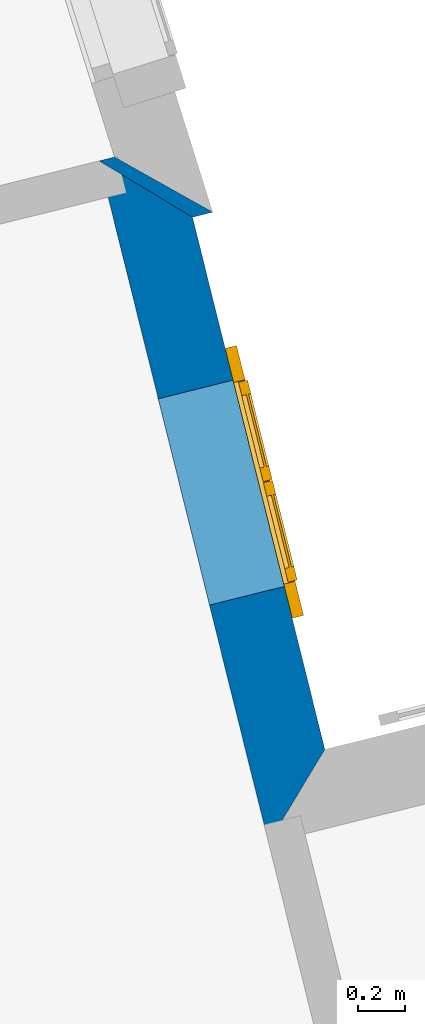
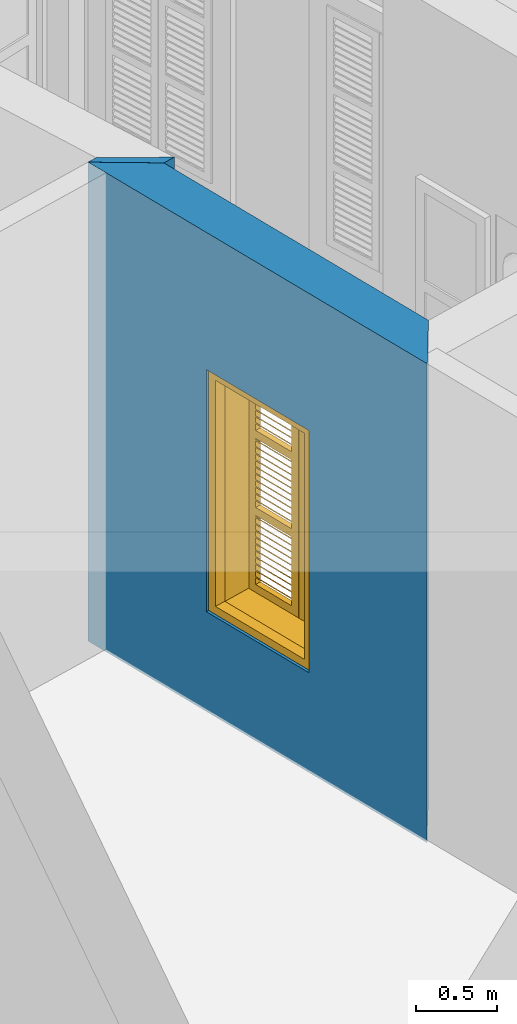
# One storey, part 5 of 14: 2 walls, 1 window, 1 opening.
"""IFC4 building model written with IfcOpenShell, lengths in metres."""

from ifc_helpers import new_model, si_unit, frame, origin, origin_with_axes, place, context, subcontext, project, spatial, polyline, outline, extrude, faceted_brep, source, transform, mapped, material, layer, layer_set, layer_usage, type_object, type_shapes, element, fill, save


model = new_model("IFC4")

# Units and contexts
model_context = context("Model", 3, world=origin_with_axes())
body_context = subcontext(model_context, "Body", "Model", "MODEL_VIEW")
ifc_project = project(units=[si_unit("PLANEANGLEUNIT", "RADIAN"), si_unit("MASSUNIT", "GRAM", prefix="KILO"), si_unit("FORCEUNIT", "NEWTON", prefix="KILO"), si_unit("LENGTHUNIT", "METRE"), si_unit("AREAUNIT", "SQUARE_METRE"), si_unit("VOLUMEUNIT", "CUBIC_METRE")], contexts=[model_context, model_context])

# Site, building, storey
site_placement = place(None, origin_with_axes())
site = spatial("IfcSite", under=ifc_project, at=site_placement, Name="Site plot-0", CompositionType="ELEMENT")
building_placement = place(None, origin_with_axes())
building = spatial("IfcBuilding", under=site, at=building_placement, Name="Building plot-0", CompositionType="ELEMENT")
storey_placement = place(None, origin_with_axes())
storey = spatial("IfcBuildingStorey", under=building, at=storey_placement, Name="plot-0 0", CompositionType="ELEMENT", Elevation=0.0)

# Wall, opening, window
ifc_material = material(Name="Masonry")
ifc_layer = layer(ifc_material, 0.33, ventilated=False)
ifc_layer_set = layer_set([ifc_layer], Name="exterior_0.08_0.25")
ifc_layer_usage = layer_usage(ifc_layer_set, "AXIS2", "POSITIVE", -0.25)
wall_type = type_object("IfcWallType", Name="exterior_0.08_0.25", PredefinedType="SOLIDWALL", material=ifc_layer_set)
wall_1_placement = place(storey_placement, frame((4.66925074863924, 2.62283335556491, 0.0), z_axis=(0.0, 0.0, 1.0), x_axis=(-0.241213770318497, 0.970472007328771, 0.0)))
wall_1 = element("IfcWall", 1, at=wall_1_placement, inside=storey, type_object=wall_type, material=ifc_layer_usage, Name="exterior", context=body_context, shape_type="SweptSolid", body=[
    extrude(outline(polyline([(-0.0799999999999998, 0.0799999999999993), (0.250000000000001, -0.250000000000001), (2.59744784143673, -0.250000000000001), (2.92744784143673, 0.0799999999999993), (-0.0799999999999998, 0.0799999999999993)])), origin_with_axes(), (0.0, 0.0, 1.0), 3.6),
])
opening_placement = place(wall_1_placement, frame((0.968723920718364, 0.0, 0.75)))
opening = element("IfcOpeningElement", 2, at=opening_placement, cuts=wall_1, Name="My Opening", ObjectType="Opening", context=body_context, shape_type="SweptSolid", body=[
    extrude(outline(polyline([(0.0, -0.27), (0.910000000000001, -0.27), (0.910000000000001, 1.1), (1.11022302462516e-16, 1.1), (0.0, -0.27)])), origin_with_axes(), (0.0, 0.0, 1.0), 1.82),
])
window_type = type_object("IfcWindowType", Name="shuttered_big", PartitioningType="DOUBLE_PANEL_HORIZONTAL", PredefinedType="NOTDEFINED")
shared_shape = source(origin(), body_context, "Body", "Brep", [
    faceted_brep([(0.074, 0.0, 0.810667), (0.393, 0.0, 0.810667), (0.393, 0.0, 0.800667), (0.074, 0.0, 0.800667), (0.074, -0.04, 0.770667), (0.393, -0.04, 0.770667), (0.393, -0.04, 0.760667), (0.074, -0.04, 0.760667), (0.517, 0.0, 0.232), (0.836, 0.0, 0.232), (0.836, 0.0, 0.222), (0.517, 0.0, 0.222), (0.517, -0.04, 0.192), (0.836, -0.04, 0.192), (0.836, -0.04, 0.182), (0.517, -0.04, 0.182), (0.517, 0.0, 0.532), (0.836, 0.0, 0.532), (0.836, 0.0, 0.522), (0.517, 0.0, 0.522), (0.517, -0.04, 0.492), (0.836, -0.04, 0.492), (0.836, -0.04, 0.482), (0.517, -0.04, 0.482), (0.517, 0.0, 0.482), (0.836, 0.0, 0.482), (0.836, 0.0, 0.472), (0.517, 0.0, 0.472), (0.517, -0.04, 0.442), (0.836, -0.04, 0.442), (0.836, -0.04, 0.432), (0.517, -0.04, 0.432), (0.517, 0.0, 0.582), (0.836, 0.0, 0.582), (0.836, 0.0, 0.572), (0.517, 0.0, 0.572), (0.517, -0.04, 0.542), (0.836, -0.04, 0.542), (0.836, -0.04, 0.532), (0.517, -0.04, 0.532), (0.517, 0.0, 0.182), (0.836, 0.0, 0.182), (0.836, 0.0, 0.172), (0.517, 0.0, 0.172), (0.517, -0.04, 0.142), (0.836, -0.04, 0.142), (0.836, -0.04, 0.132), (0.517, -0.04, 0.132), (0.517, 0.0, 0.382), (0.836, 0.0, 0.382), (0.836, 0.0, 0.372), (0.517, 0.0, 0.372), (0.517, -0.04, 0.342), (0.836, -0.04, 0.342), (0.836, -0.04, 0.332), (0.517, -0.04, 0.332), (0.517, 0.0, 0.432), (0.836, 0.0, 0.432), (0.836, 0.0, 0.422), (0.517, 0.0, 0.422), (0.517, -0.04, 0.392), (0.836, -0.04, 0.392), (0.836, -0.04, 0.382), (0.517, -0.04, 0.382), (0.517, 0.0, 0.132), (0.836, 0.0, 0.132), (0.836, 0.0, 0.122), (0.517, 0.0, 0.122), (0.517, -0.04, 0.092), (0.836, -0.04, 0.092), (0.836, -0.04, 0.082), (0.517, -0.04, 0.082), (0.517, 0.0, 0.282), (0.836, 0.0, 0.282), (0.836, 0.0, 0.272), (0.517, 0.0, 0.272), (0.517, -0.04, 0.242), (0.836, -0.04, 0.242), (0.836, -0.04, 0.232), (0.517, -0.04, 0.232), (0.517, 0.0, 0.332), (0.836, 0.0, 0.332), (0.836, 0.0, 0.322), (0.517, 0.0, 0.322), (0.517, -0.04, 0.292), (0.836, -0.04, 0.292), (0.836, -0.04, 0.282), (0.517, -0.04, 0.282), (0.517, 0.0, 0.810667), (0.836, 0.0, 0.810667), (0.836, 0.0, 0.800667), (0.517, 0.0, 0.800667), (0.517, -0.04, 0.770667), (0.836, -0.04, 0.770667), (0.836, -0.04, 0.760667), (0.517, -0.04, 0.760667), (0.517, 0.0, 1.110667), (0.836, 0.0, 1.110667), (0.836, 0.0, 1.100667), (0.517, 0.0, 1.100667), (0.517, -0.04, 1.070667), (0.836, -0.04, 1.070667), (0.836, -0.04, 1.060667), (0.517, -0.04, 1.060667), (0.517, 0.0, 1.060667), (0.836, 0.0, 1.060667), (0.836, 0.0, 1.050667), (0.517, 0.0, 1.050667), (0.517, -0.04, 1.020667), (0.836, -0.04, 1.020667), (0.836, -0.04, 1.010667), (0.517, -0.04, 1.010667), (0.517, 0.0, 1.160667), (0.836, 0.0, 1.160667), (0.836, 0.0, 1.150667), (0.517, 0.0, 1.150667), (0.517, -0.04, 1.120667), (0.836, -0.04, 1.120667), (0.836, -0.04, 1.110667), (0.517, -0.04, 1.110667), (0.517, 0.0, 0.760667), (0.836, 0.0, 0.760667), (0.836, 0.0, 0.750667), (0.517, 0.0, 0.750667), (0.517, -0.04, 0.720667), (0.836, -0.04, 0.720667), (0.836, -0.04, 0.710667), (0.517, -0.04, 0.710667), (0.517, 0.0, 0.960667), (0.836, 0.0, 0.960667), (0.836, 0.0, 0.950667), (0.517, 0.0, 0.950667), (0.517, -0.04, 0.920667), (0.836, -0.04, 0.920667), (0.836, -0.04, 0.910667), (0.517, -0.04, 0.910667), (0.517, 0.0, 1.010667), (0.836, 0.0, 1.010667), (0.836, 0.0, 1.0), (0.517, 0.0, 1.0), (0.517, -0.04, 0.970667), (0.836, -0.04, 0.970667), (0.836, -0.04, 0.960667), (0.517, -0.04, 0.960667), (0.517, 0.0, 0.710667), (0.836, 0.0, 0.710667), (0.836, 0.0, 0.700667), (0.517, 0.0, 0.700667), (0.517, -0.04, 0.670667), (0.836, -0.04, 0.670667), (0.836, -0.04, 0.660667), (0.517, -0.04, 0.660667), (0.517, 0.0, 0.860667), (0.836, 0.0, 0.860667), (0.836, 0.0, 0.850667), (0.517, 0.0, 0.850667), (0.517, -0.04, 0.820667), (0.836, -0.04, 0.820667), (0.836, -0.04, 0.810667), (0.517, -0.04, 0.810667), (0.517, 0.0, 0.910667), (0.836, 0.0, 0.910667), (0.836, 0.0, 0.900667), (0.517, 0.0, 0.900667), (0.517, -0.04, 0.870667), (0.836, -0.04, 0.870667), (0.836, -0.04, 0.860667), (0.517, -0.04, 0.860667), (0.517, 0.0, 1.389333), (0.836, 0.0, 1.389333), (0.836, 0.0, 1.379333), (0.517, 0.0, 1.379333), (0.517, -0.04, 1.349333), (0.836, -0.04, 1.349333), (0.836, -0.04, 1.339333), (0.517, -0.04, 1.339333), (0.517, 0.0, 1.689333), (0.836, 0.0, 1.689333), (0.836, 0.0, 1.679333), (0.517, 0.0, 1.679333), (0.517, -0.04, 1.649333), (0.836, -0.04, 1.649333), (0.836, -0.04, 1.639333), (0.517, -0.04, 1.639333), (0.517, 0.0, 1.639333), (0.836, 0.0, 1.639333), (0.836, 0.0, 1.629333), (0.517, 0.0, 1.629333), (0.517, -0.04, 1.599333), (0.836, -0.04, 1.599333), (0.836, -0.04, 1.589333), (0.517, -0.04, 1.589333), (0.517, 0.0, 1.739333), (0.836, 0.0, 1.739333), (0.836, 0.0, 1.729333), (0.517, 0.0, 1.729333), (0.517, -0.04, 1.699333), (0.836, -0.04, 1.699333), (0.836, -0.04, 1.689333), (0.517, -0.04, 1.689333), (0.517, 0.0, 1.339333), (0.836, 0.0, 1.339333), (0.836, 0.0, 1.329333), (0.517, 0.0, 1.329333), (0.517, -0.04, 1.299333), (0.836, -0.04, 1.299333), (0.836, -0.04, 1.289333), (0.517, -0.04, 1.289333), (0.517, 0.0, 1.539333), (0.836, 0.0, 1.539333), (0.836, 0.0, 1.529333), (0.517, 0.0, 1.529333), (0.517, -0.04, 1.499333), (0.836, -0.04, 1.499333), (0.836, -0.04, 1.489333), (0.517, -0.04, 1.489333), (0.517, 0.0, 1.589333), (0.836, 0.0, 1.589333), (0.836, 0.0, 1.579333), (0.517, 0.0, 1.579333), (0.517, -0.04, 1.549333), (0.836, -0.04, 1.549333), (0.836, -0.04, 1.539333), (0.517, -0.04, 1.539333), (0.517, 0.0, 1.289333), (0.836, 0.0, 1.289333), (0.836, 0.0, 1.279333), (0.517, 0.0, 1.279333), (0.517, -0.04, 1.249333), (0.836, -0.04, 1.249333), (0.836, -0.04, 1.239333), (0.517, -0.04, 1.239333), (0.517, 0.0, 1.439333), (0.836, 0.0, 1.439333), (0.836, 0.0, 1.429333), (0.517, 0.0, 1.429333), (0.517, -0.04, 1.399333), (0.836, -0.04, 1.399333), (0.836, -0.04, 1.389333), (0.517, -0.04, 1.389333), (0.517, 0.0, 1.489333), (0.836, 0.0, 1.489333), (0.836, 0.0, 1.479333), (0.517, 0.0, 1.479333), (0.517, -0.04, 1.449333), (0.836, -0.04, 1.449333), (0.836, -0.04, 1.439333), (0.517, -0.04, 1.439333), (0.074, 0.0, 0.232), (0.393, 0.0, 0.232), (0.393, 0.0, 0.222), (0.074, 0.0, 0.222), (0.074, -0.04, 0.192), (0.393, -0.04, 0.192), (0.393, -0.04, 0.182), (0.074, -0.04, 0.182), (0.074, 0.0, 0.532), (0.393, 0.0, 0.532), (0.393, 0.0, 0.522), (0.074, 0.0, 0.522), (0.074, -0.04, 0.492), (0.393, -0.04, 0.492), (0.393, -0.04, 0.482), (0.074, -0.04, 0.482), (0.074, 0.0, 0.482), (0.393, 0.0, 0.482), (0.393, 0.0, 0.472), (0.074, 0.0, 0.472), (0.074, -0.04, 0.442), (0.393, -0.04, 0.442), (0.393, -0.04, 0.432), (0.074, -0.04, 0.432), (0.074, 0.0, 0.582), (0.393, 0.0, 0.582), (0.393, 0.0, 0.572), (0.074, 0.0, 0.572), (0.074, -0.04, 0.542), (0.393, -0.04, 0.542), (0.393, -0.04, 0.532), (0.074, -0.04, 0.532), (0.074, 0.0, 0.182), (0.393, 0.0, 0.182), (0.393, 0.0, 0.172), (0.074, 0.0, 0.172), (0.074, -0.04, 0.142), (0.393, -0.04, 0.142), (0.393, -0.04, 0.132), (0.074, -0.04, 0.132), (0.074, 0.0, 0.382), (0.393, 0.0, 0.382), (0.393, 0.0, 0.372), (0.074, 0.0, 0.372), (0.074, -0.04, 0.342), (0.393, -0.04, 0.342), (0.393, -0.04, 0.332), (0.074, -0.04, 0.332), (0.074, 0.0, 0.432), (0.393, 0.0, 0.432), (0.393, 0.0, 0.422), (0.074, 0.0, 0.422), (0.074, -0.04, 0.392), (0.393, -0.04, 0.392), (0.393, -0.04, 0.382), (0.074, -0.04, 0.382), (0.074, 0.0, 0.132), (0.393, 0.0, 0.132), (0.393, 0.0, 0.122), (0.074, 0.0, 0.122), (0.074, -0.04, 0.092), (0.393, -0.04, 0.092), (0.393, -0.04, 0.082), (0.074, -0.04, 0.082), (0.074, 0.0, 0.282), (0.393, 0.0, 0.282), (0.393, 0.0, 0.272), (0.074, 0.0, 0.272), (0.074, -0.04, 0.242), (0.393, -0.04, 0.242), (0.393, -0.04, 0.232), (0.074, -0.04, 0.232), (0.074, 0.0, 0.332), (0.393, 0.0, 0.332), (0.393, 0.0, 0.322), (0.074, 0.0, 0.322), (0.074, -0.04, 0.292), (0.393, -0.04, 0.292), (0.393, -0.04, 0.282), (0.074, -0.04, 0.282), (0.074, 0.0, 1.110667), (0.393, 0.0, 1.110667), (0.393, 0.0, 1.100667), (0.074, 0.0, 1.100667), (0.074, -0.04, 1.070667), (0.393, -0.04, 1.070667), (0.393, -0.04, 1.060667), (0.074, -0.04, 1.060667), (0.074, 0.0, 1.060667), (0.393, 0.0, 1.060667), (0.393, 0.0, 1.050667), (0.074, 0.0, 1.050667), (0.074, -0.04, 1.020667), (0.393, -0.04, 1.020667), (0.393, -0.04, 1.010667), (0.074, -0.04, 1.010667), (0.074, 0.0, 1.160667), (0.393, 0.0, 1.160667), (0.393, 0.0, 1.150667), (0.074, 0.0, 1.150667), (0.074, -0.04, 1.120667), (0.393, -0.04, 1.120667), (0.393, -0.04, 1.110667), (0.074, -0.04, 1.110667), (0.074, 0.0, 0.760667), (0.393, 0.0, 0.760667), (0.393, 0.0, 0.750667), (0.074, 0.0, 0.750667), (0.074, -0.04, 0.720667), (0.393, -0.04, 0.720667), (0.393, -0.04, 0.710667), (0.074, -0.04, 0.710667), (0.074, 0.0, 0.960667), (0.393, 0.0, 0.960667), (0.393, 0.0, 0.950667), (0.074, 0.0, 0.950667), (0.074, -0.04, 0.920667), (0.393, -0.04, 0.920667), (0.393, -0.04, 0.910667), (0.074, -0.04, 0.910667), (0.074, 0.0, 1.010667), (0.393, 0.0, 1.010667), (0.393, 0.0, 1.0), (0.074, 0.0, 1.0), (0.074, -0.04, 0.970667), (0.393, -0.04, 0.970667), (0.393, -0.04, 0.960667), (0.074, -0.04, 0.960667), (0.074, 0.0, 0.710667), (0.393, 0.0, 0.710667), (0.393, 0.0, 0.700667), (0.074, 0.0, 0.700667), (0.074, -0.04, 0.670667), (0.393, -0.04, 0.670667), (0.393, -0.04, 0.660667), (0.074, -0.04, 0.660667), (0.074, 0.0, 0.860667), (0.393, 0.0, 0.860667), (0.393, 0.0, 0.850667), (0.074, 0.0, 0.850667), (0.074, -0.04, 0.820667), (0.393, -0.04, 0.820667), (0.393, -0.04, 0.810667), (0.074, -0.04, 0.810667), (0.074, 0.0, 0.910667), (0.393, 0.0, 0.910667), (0.393, 0.0, 0.900667), (0.074, 0.0, 0.900667), (0.074, -0.04, 0.870667), (0.393, -0.04, 0.870667), (0.393, -0.04, 0.860667), (0.074, -0.04, 0.860667), (0.074, 0.0, 1.389333), (0.393, 0.0, 1.389333), (0.393, 0.0, 1.379333), (0.074, 0.0, 1.379333), (0.074, -0.04, 1.349333), (0.393, -0.04, 1.349333), (0.393, -0.04, 1.339333), (0.074, -0.04, 1.339333), (0.074, 0.0, 1.689333), (0.393, 0.0, 1.689333), (0.393, 0.0, 1.679333), (0.074, 0.0, 1.679333), (0.074, -0.04, 1.649333), (0.393, -0.04, 1.649333), (0.393, -0.04, 1.639333), (0.074, -0.04, 1.639333), (0.074, 0.0, 1.639333), (0.393, 0.0, 1.639333), (0.393, 0.0, 1.629333), (0.074, 0.0, 1.629333), (0.074, -0.04, 1.599333), (0.393, -0.04, 1.599333), (0.393, -0.04, 1.589333), (0.074, -0.04, 1.589333), (0.074, 0.0, 1.739333), (0.393, 0.0, 1.739333), (0.393, 0.0, 1.729333), (0.074, 0.0, 1.729333), (0.074, -0.04, 1.699333), (0.393, -0.04, 1.699333), (0.393, -0.04, 1.689333), (0.074, -0.04, 1.689333), (0.074, 0.0, 1.339333), (0.393, 0.0, 1.339333), (0.393, 0.0, 1.329333), (0.074, 0.0, 1.329333), (0.074, -0.04, 1.299333), (0.393, -0.04, 1.299333), (0.393, -0.04, 1.289333), (0.074, -0.04, 1.289333), (0.074, 0.0, 1.539333), (0.393, 0.0, 1.539333), (0.393, 0.0, 1.529333), (0.074, 0.0, 1.529333), (0.074, -0.04, 1.499333), (0.393, -0.04, 1.499333), (0.393, -0.04, 1.489333), (0.074, -0.04, 1.489333), (0.074, 0.0, 1.589333), (0.393, 0.0, 1.589333), (0.393, 0.0, 1.579333), (0.074, 0.0, 1.579333), (0.074, -0.04, 1.549333), (0.393, -0.04, 1.549333), (0.393, -0.04, 1.539333), (0.074, -0.04, 1.539333), (0.074, 0.0, 1.289333), (0.393, 0.0, 1.289333), (0.393, 0.0, 1.279333), (0.074, 0.0, 1.279333), (0.074, -0.04, 1.249333), (0.393, -0.04, 1.249333), (0.393, -0.04, 1.239333), (0.074, -0.04, 1.239333), (0.074, 0.0, 1.439333), (0.393, 0.0, 1.439333), (0.393, 0.0, 1.429333), (0.074, 0.0, 1.429333), (0.074, -0.04, 1.399333), (0.393, -0.04, 1.399333), (0.393, -0.04, 1.389333), (0.074, -0.04, 1.389333), (0.074, 0.0, 1.489333), (0.393, 0.0, 1.489333), (0.393, 0.0, 1.479333), (0.074, 0.0, 1.479333), (0.074, -0.04, 1.449333), (0.393, -0.04, 1.449333), (0.393, -0.04, 1.439333), (0.074, -0.04, 1.439333), (0.517, -0.04, 0.072), (0.457, -0.04, 0.012), (0.896, -0.04, 0.012), (0.836, -0.04, 0.072), (0.457, -0.04, 0.590667), (0.517, -0.04, 0.590667), (0.457, 0.0, 0.012), (0.896, 0.0, 0.012), (0.836, -0.04, 0.590667), (0.896, -0.04, 0.590667), (0.836, 0.0, 0.072), (0.517, 0.0, 0.072), (0.457, 0.0, 0.590667), (0.517, 0.0, 0.590667), (0.517, -0.04, 0.650667), (0.457, -0.04, 0.650667), (0.896, 0.0, 0.590667), (0.836, 0.0, 0.590667), (0.836, -0.04, 0.650667), (0.896, -0.04, 0.650667), (0.457, 0.0, 0.650667), (0.457, -0.04, 1.169333), (0.517, -0.04, 1.169333), (0.896, 0.0, 0.650667), (0.836, -0.04, 1.169333), (0.896, -0.04, 1.169333), (0.457, 0.0, 1.169333), (0.517, 0.0, 0.650667), (0.836, 0.0, 0.650667), (0.517, 0.0, 1.169333), (0.517, -0.04, 1.229333), (0.457, -0.04, 1.229333), (0.896, 0.0, 1.169333), (0.836, 0.0, 1.169333), (0.836, -0.04, 1.229333), (0.896, -0.04, 1.229333), (0.457, 0.0, 1.229333), (0.517, -0.04, 1.748), (0.457, -0.04, 1.808), (0.896, 0.0, 1.229333), (0.896, -0.04, 1.808), (0.836, -0.04, 1.748), (0.457, 0.0, 1.808), (0.517, 0.0, 1.229333), (0.836, 0.0, 1.229333), (0.517, 0.0, 1.748), (0.896, 0.0, 1.808), (0.836, 0.0, 1.748), (0.074, -0.04, 0.072), (0.014, -0.04, 0.012), (0.453, -0.04, 0.012), (0.393, -0.04, 0.072), (0.014, -0.04, 0.590667), (0.074, -0.04, 0.590667), (0.014, 0.0, 0.012), (0.453, 0.0, 0.012), (0.393, -0.04, 0.590667), (0.453, -0.04, 0.590667), (0.393, 0.0, 0.072), (0.074, 0.0, 0.072), (0.014, 0.0, 0.590667), (0.074, 0.0, 0.590667), (0.074, -0.04, 0.650667), (0.014, -0.04, 0.650667), (0.453, 0.0, 0.590667), (0.393, 0.0, 0.590667), (0.393, -0.04, 0.650667), (0.453, -0.04, 0.650667), (0.014, 0.0, 0.650667), (0.014, -0.04, 1.169333), (0.074, -0.04, 1.169333), (0.453, 0.0, 0.650667), (0.393, -0.04, 1.169333), (0.453, -0.04, 1.169333), (0.014, 0.0, 1.169333), (0.074, 0.0, 0.650667), (0.393, 0.0, 0.650667), (0.074, 0.0, 1.169333), (0.074, -0.04, 1.229333), (0.014, -0.04, 1.229333), (0.453, 0.0, 1.169333), (0.393, 0.0, 1.169333), (0.393, -0.04, 1.229333), (0.453, -0.04, 1.229333), (0.014, 0.0, 1.229333), (0.074, -0.04, 1.748), (0.014, -0.04, 1.808), (0.453, 0.0, 1.229333), (0.453, -0.04, 1.808), (0.393, -0.04, 1.748), (0.014, 0.0, 1.808), (0.074, 0.0, 1.229333), (0.393, 0.0, 1.229333), (0.074, 0.0, 1.748), (0.453, 0.0, 1.808), (0.393, 0.0, 1.748), (0.0, 0.33, 1.82), (0.91, 0.33, 1.82), (0.85, 0.33, 1.76), (0.06, 0.33, 1.76), (1.05, -0.03, 1.96), (1.05, 0.25, 1.96), (-0.14, 0.25, 1.96), (-0.14, -0.03, 1.96), (0.0, 0.25, 1.82), (0.91, 0.25, 1.82), (0.9, 0.25, 1.81), (0.01, 0.25, 1.81), (0.85, 0.33, 0.06), (0.91, 0.33, 0.0), (0.85, 0.25, 1.76), (0.06, 0.25, 1.76), (0.0, 0.33, 0.0), (0.06, 0.33, 0.06), (0.0, 0.25, 0.0), (0.910046, 0.25, 1.82), (0.91, 0.25, 0.0), (0.85, 0.25, 0.06), (0.06, 0.25, 0.06), (0.9, 0.25, 0.01), (0.9, -0.03, 0.01), (0.9, -0.03, 1.81), (0.01, -0.03, 0.01), (-0.14, -0.03, -0.14), (1.05, -0.03, -0.14), (0.01, -0.03, 1.81), (0.01, 0.25, 0.01), (1.05, 0.25, -0.14), (-0.14, 0.25, -0.14)], [[[0, 1, 2, 3]], [[1, 0, 4, 5]], [[2, 1, 5, 6]], [[6, 7, 3, 2]], [[7, 4, 0, 3]], [[5, 4, 7, 6]], [[8, 9, 10, 11]], [[12, 13, 9, 8]], [[13, 14, 10, 9]], [[14, 15, 11, 10]], [[15, 12, 8, 11]], [[13, 12, 15, 14]], [[16, 17, 18, 19]], [[20, 21, 17, 16]], [[21, 22, 18, 17]], [[22, 23, 19, 18]], [[23, 20, 16, 19]], [[21, 20, 23, 22]], [[24, 25, 26, 27]], [[28, 29, 25, 24]], [[29, 30, 26, 25]], [[30, 31, 27, 26]], [[31, 28, 24, 27]], [[29, 28, 31, 30]], [[32, 33, 34, 35]], [[36, 37, 33, 32]], [[37, 38, 34, 33]], [[38, 39, 35, 34]], [[39, 36, 32, 35]], [[37, 36, 39, 38]], [[40, 41, 42, 43]], [[44, 45, 41, 40]], [[45, 46, 42, 41]], [[46, 47, 43, 42]], [[47, 44, 40, 43]], [[45, 44, 47, 46]], [[48, 49, 50, 51]], [[52, 53, 49, 48]], [[53, 54, 50, 49]], [[54, 55, 51, 50]], [[55, 52, 48, 51]], [[53, 52, 55, 54]], [[56, 57, 58, 59]], [[60, 61, 57, 56]], [[61, 62, 58, 57]], [[62, 63, 59, 58]], [[63, 60, 56, 59]], [[61, 60, 63, 62]], [[64, 65, 66, 67]], [[68, 69, 65, 64]], [[69, 70, 66, 65]], [[70, 71, 67, 66]], [[71, 68, 64, 67]], [[69, 68, 71, 70]], [[72, 73, 74, 75]], [[76, 77, 73, 72]], [[77, 78, 74, 73]], [[78, 79, 75, 74]], [[79, 76, 72, 75]], [[77, 76, 79, 78]], [[80, 81, 82, 83]], [[84, 85, 81, 80]], [[85, 86, 82, 81]], [[86, 87, 83, 82]], [[87, 84, 80, 83]], [[85, 84, 87, 86]], [[88, 89, 90, 91]], [[92, 93, 89, 88]], [[93, 94, 90, 89]], [[94, 95, 91, 90]], [[95, 92, 88, 91]], [[93, 92, 95, 94]], [[96, 97, 98, 99]], [[100, 101, 97, 96]], [[101, 102, 98, 97]], [[102, 103, 99, 98]], [[103, 100, 96, 99]], [[101, 100, 103, 102]], [[104, 105, 106, 107]], [[108, 109, 105, 104]], [[109, 110, 106, 105]], [[110, 111, 107, 106]], [[111, 108, 104, 107]], [[109, 108, 111, 110]], [[112, 113, 114, 115]], [[116, 117, 113, 112]], [[117, 118, 114, 113]], [[118, 119, 115, 114]], [[119, 116, 112, 115]], [[117, 116, 119, 118]], [[120, 121, 122, 123]], [[124, 125, 121, 120]], [[125, 126, 122, 121]], [[126, 127, 123, 122]], [[127, 124, 120, 123]], [[125, 124, 127, 126]], [[128, 129, 130, 131]], [[132, 133, 129, 128]], [[133, 134, 130, 129]], [[134, 135, 131, 130]], [[135, 132, 128, 131]], [[133, 132, 135, 134]], [[136, 137, 138, 139]], [[140, 141, 137, 136]], [[141, 142, 138, 137]], [[142, 143, 139, 138]], [[143, 140, 136, 139]], [[141, 140, 143, 142]], [[144, 145, 146, 147]], [[148, 149, 145, 144]], [[149, 150, 146, 145]], [[150, 151, 147, 146]], [[151, 148, 144, 147]], [[149, 148, 151, 150]], [[152, 153, 154, 155]], [[156, 157, 153, 152]], [[157, 158, 154, 153]], [[158, 159, 155, 154]], [[159, 156, 152, 155]], [[157, 156, 159, 158]], [[160, 161, 162, 163]], [[164, 165, 161, 160]], [[165, 166, 162, 161]], [[166, 167, 163, 162]], [[167, 164, 160, 163]], [[165, 164, 167, 166]], [[168, 169, 170, 171]], [[172, 173, 169, 168]], [[173, 174, 170, 169]], [[174, 175, 171, 170]], [[175, 172, 168, 171]], [[173, 172, 175, 174]], [[176, 177, 178, 179]], [[180, 181, 177, 176]], [[181, 182, 178, 177]], [[182, 183, 179, 178]], [[183, 180, 176, 179]], [[181, 180, 183, 182]], [[184, 185, 186, 187]], [[188, 189, 185, 184]], [[189, 190, 186, 185]], [[190, 191, 187, 186]], [[191, 188, 184, 187]], [[189, 188, 191, 190]], [[192, 193, 194, 195]], [[196, 197, 193, 192]], [[197, 198, 194, 193]], [[198, 199, 195, 194]], [[199, 196, 192, 195]], [[197, 196, 199, 198]], [[200, 201, 202, 203]], [[204, 205, 201, 200]], [[205, 206, 202, 201]], [[206, 207, 203, 202]], [[207, 204, 200, 203]], [[205, 204, 207, 206]], [[208, 209, 210, 211]], [[212, 213, 209, 208]], [[213, 214, 210, 209]], [[214, 215, 211, 210]], [[215, 212, 208, 211]], [[213, 212, 215, 214]], [[216, 217, 218, 219]], [[220, 221, 217, 216]], [[221, 222, 218, 217]], [[222, 223, 219, 218]], [[223, 220, 216, 219]], [[221, 220, 223, 222]], [[224, 225, 226, 227]], [[228, 229, 225, 224]], [[229, 230, 226, 225]], [[230, 231, 227, 226]], [[231, 228, 224, 227]], [[229, 228, 231, 230]], [[232, 233, 234, 235]], [[236, 237, 233, 232]], [[237, 238, 234, 233]], [[238, 239, 235, 234]], [[239, 236, 232, 235]], [[237, 236, 239, 238]], [[240, 241, 242, 243]], [[244, 245, 241, 240]], [[245, 246, 242, 241]], [[246, 247, 243, 242]], [[247, 244, 240, 243]], [[245, 244, 247, 246]], [[248, 249, 250, 251]], [[252, 253, 249, 248]], [[253, 254, 250, 249]], [[254, 255, 251, 250]], [[255, 252, 248, 251]], [[253, 252, 255, 254]], [[256, 257, 258, 259]], [[260, 261, 257, 256]], [[261, 262, 258, 257]], [[262, 263, 259, 258]], [[263, 260, 256, 259]], [[261, 260, 263, 262]], [[264, 265, 266, 267]], [[268, 269, 265, 264]], [[269, 270, 266, 265]], [[270, 271, 267, 266]], [[271, 268, 264, 267]], [[269, 268, 271, 270]], [[272, 273, 274, 275]], [[276, 277, 273, 272]], [[277, 278, 274, 273]], [[278, 279, 275, 274]], [[279, 276, 272, 275]], [[277, 276, 279, 278]], [[280, 281, 282, 283]], [[284, 285, 281, 280]], [[285, 286, 282, 281]], [[286, 287, 283, 282]], [[287, 284, 280, 283]], [[285, 284, 287, 286]], [[288, 289, 290, 291]], [[292, 293, 289, 288]], [[293, 294, 290, 289]], [[294, 295, 291, 290]], [[295, 292, 288, 291]], [[293, 292, 295, 294]], [[296, 297, 298, 299]], [[300, 301, 297, 296]], [[301, 302, 298, 297]], [[302, 303, 299, 298]], [[303, 300, 296, 299]], [[301, 300, 303, 302]], [[304, 305, 306, 307]], [[308, 309, 305, 304]], [[309, 310, 306, 305]], [[310, 311, 307, 306]], [[311, 308, 304, 307]], [[309, 308, 311, 310]], [[312, 313, 314, 315]], [[316, 317, 313, 312]], [[317, 318, 314, 313]], [[318, 319, 315, 314]], [[319, 316, 312, 315]], [[317, 316, 319, 318]], [[320, 321, 322, 323]], [[324, 325, 321, 320]], [[325, 326, 322, 321]], [[326, 327, 323, 322]], [[327, 324, 320, 323]], [[325, 324, 327, 326]], [[328, 329, 330, 331]], [[332, 333, 329, 328]], [[333, 334, 330, 329]], [[334, 335, 331, 330]], [[335, 332, 328, 331]], [[333, 332, 335, 334]], [[336, 337, 338, 339]], [[340, 341, 337, 336]], [[341, 342, 338, 337]], [[342, 343, 339, 338]], [[343, 340, 336, 339]], [[341, 340, 343, 342]], [[344, 345, 346, 347]], [[348, 349, 345, 344]], [[349, 350, 346, 345]], [[350, 351, 347, 346]], [[351, 348, 344, 347]], [[349, 348, 351, 350]], [[352, 353, 354, 355]], [[356, 357, 353, 352]], [[357, 358, 354, 353]], [[358, 359, 355, 354]], [[359, 356, 352, 355]], [[357, 356, 359, 358]], [[360, 361, 362, 363]], [[364, 365, 361, 360]], [[365, 366, 362, 361]], [[366, 367, 363, 362]], [[367, 364, 360, 363]], [[366, 365, 364, 367]], [[368, 369, 370, 371]], [[372, 373, 369, 368]], [[373, 374, 370, 369]], [[374, 375, 371, 370]], [[375, 372, 368, 371]], [[373, 372, 375, 374]], [[376, 377, 378, 379]], [[380, 381, 377, 376]], [[381, 382, 378, 377]], [[382, 383, 379, 378]], [[383, 380, 376, 379]], [[381, 380, 383, 382]], [[384, 385, 386, 387]], [[388, 389, 385, 384]], [[389, 390, 386, 385]], [[390, 391, 387, 386]], [[391, 388, 384, 387]], [[389, 388, 391, 390]], [[392, 393, 394, 395]], [[396, 397, 393, 392]], [[397, 398, 394, 393]], [[398, 399, 395, 394]], [[399, 396, 392, 395]], [[397, 396, 399, 398]], [[400, 401, 402, 403]], [[404, 405, 401, 400]], [[405, 406, 402, 401]], [[406, 407, 403, 402]], [[407, 404, 400, 403]], [[405, 404, 407, 406]], [[408, 409, 410, 411]], [[412, 413, 409, 408]], [[413, 414, 410, 409]], [[414, 415, 411, 410]], [[415, 412, 408, 411]], [[414, 413, 412, 415]], [[416, 417, 418, 419]], [[420, 421, 417, 416]], [[421, 422, 418, 417]], [[422, 423, 419, 418]], [[423, 420, 416, 419]], [[421, 420, 423, 422]], [[424, 425, 426, 427]], [[428, 429, 425, 424]], [[429, 430, 426, 425]], [[430, 431, 427, 426]], [[431, 428, 424, 427]], [[429, 428, 431, 430]], [[432, 433, 434, 435]], [[436, 437, 433, 432]], [[437, 438, 434, 433]], [[438, 439, 435, 434]], [[439, 436, 432, 435]], [[437, 436, 439, 438]], [[440, 441, 442, 443]], [[444, 445, 441, 440]], [[445, 446, 442, 441]], [[446, 447, 443, 442]], [[447, 444, 440, 443]], [[445, 444, 447, 446]], [[448, 449, 450, 451]], [[452, 453, 449, 448]], [[453, 454, 450, 449]], [[454, 455, 451, 450]], [[455, 452, 448, 451]], [[453, 452, 455, 454]], [[456, 457, 458, 459]], [[460, 461, 457, 456]], [[461, 462, 458, 457]], [[462, 463, 459, 458]], [[463, 460, 456, 459]], [[461, 460, 463, 462]], [[464, 465, 466, 467]], [[468, 469, 465, 464]], [[469, 470, 466, 465]], [[470, 471, 467, 466]], [[471, 468, 464, 467]], [[469, 468, 471, 470]], [[472, 473, 474, 475]], [[476, 477, 473, 472]], [[477, 478, 474, 473]], [[478, 479, 475, 474]], [[479, 476, 472, 475]], [[477, 476, 479, 478]], [[480, 481, 482, 483]], [[484, 481, 480, 485]], [[486, 487, 482, 481]], [[488, 483, 482, 489]], [[480, 483, 490, 491]], [[486, 481, 484, 492]], [[485, 480, 491, 493]], [[485, 494, 495, 484]], [[486, 491, 490, 487]], [[496, 489, 482, 487]], [[483, 488, 497, 490]], [[498, 488, 489, 499]], [[492, 484, 495, 500]], [[486, 492, 493, 491]], [[488, 485, 493, 497]], [[494, 485, 488, 498]], [[501, 495, 494, 502]], [[490, 497, 496, 487]], [[503, 499, 489, 496]], [[504, 498, 499, 505]], [[500, 495, 501, 506]], [[507, 493, 492, 500]], [[493, 507, 508, 497]], [[494, 498, 508, 507]], [[502, 494, 507, 509]], [[502, 510, 511, 501]], [[497, 508, 503, 496]], [[512, 505, 499, 503]], [[498, 504, 513, 508]], [[514, 504, 505, 515]], [[506, 501, 511, 516]], [[500, 506, 509, 507]], [[504, 502, 509, 513]], [[510, 502, 504, 514]], [[510, 517, 518, 511]], [[508, 513, 512, 503]], [[519, 515, 505, 512]], [[515, 520, 521, 514]], [[516, 511, 518, 522]], [[523, 509, 506, 516]], [[509, 523, 524, 513]], [[510, 514, 524, 523]], [[517, 510, 523, 525]], [[518, 517, 521, 520]], [[513, 524, 519, 512]], [[526, 520, 515, 519]], [[514, 521, 527, 524]], [[522, 518, 520, 526]], [[525, 523, 516, 522]], [[521, 517, 525, 527]], [[526, 519, 524, 527]], [[525, 522, 526, 527]], [[528, 529, 530, 531]], [[532, 529, 528, 533]], [[534, 535, 530, 529]], [[536, 531, 530, 537]], [[528, 531, 538, 539]], [[534, 529, 532, 540]], [[533, 528, 539, 541]], [[533, 542, 543, 532]], [[534, 539, 538, 535]], [[544, 537, 530, 535]], [[531, 536, 545, 538]], [[546, 536, 537, 547]], [[540, 532, 543, 548]], [[534, 540, 541, 539]], [[536, 533, 541, 545]], [[542, 533, 536, 546]], [[549, 543, 542, 550]], [[538, 545, 544, 535]], [[551, 547, 537, 544]], [[552, 546, 547, 553]], [[548, 543, 549, 554]], [[555, 541, 540, 548]], [[541, 555, 556, 545]], [[542, 546, 556, 555]], [[550, 542, 555, 557]], [[550, 558, 559, 549]], [[545, 556, 551, 544]], [[560, 553, 547, 551]], [[546, 552, 561, 556]], [[562, 552, 553, 563]], [[554, 549, 559, 564]], [[548, 554, 557, 555]], [[552, 550, 557, 561]], [[558, 550, 552, 562]], [[558, 565, 566, 559]], [[556, 561, 560, 551]], [[567, 563, 553, 560]], [[563, 568, 569, 562]], [[564, 559, 566, 570]], [[571, 557, 554, 564]], [[557, 571, 572, 561]], [[558, 562, 572, 571]], [[565, 558, 571, 573]], [[566, 565, 569, 568]], [[561, 572, 567, 560]], [[574, 568, 563, 567]], [[562, 569, 575, 572]], [[570, 566, 568, 574]], [[573, 571, 564, 570]], [[569, 565, 573, 575]], [[574, 567, 572, 575]], [[573, 570, 574, 575]], [[576, 577, 578, 579]], [[580, 581, 582, 583]], [[576, 584, 585, 577]], [[582, 581, 586, 587]], [[588, 578, 577, 589]], [[579, 578, 590, 591]], [[592, 576, 579, 593]], [[576, 592, 594, 584]], [[595, 584, 591, 590]], [[596, 585, 595]], [[595, 590, 597]], [[595, 597, 596]], [[589, 577, 585, 596]], [[578, 588, 597, 590]], [[589, 592, 593, 588]], [[593, 579, 591, 598]], [[592, 589, 596, 594]], [[598, 591, 584, 594]], [[594, 596, 597, 598]], [[588, 593, 598, 597]], [[599, 600, 601, 586]], [[602, 603, 604, 600]], [[601, 605, 587, 586]], [[600, 599, 606, 602]], [[607, 604, 603, 608]], [[599, 607, 608, 606]], [[605, 602, 606, 587]], [[602, 605, 583, 603]], [[600, 604, 580, 601]], [[580, 583, 605, 601]], [[606, 608, 582, 587]], [[599, 586, 581, 607]], [[582, 608, 603, 583]], [[580, 604, 607, 581]]]),
])
type_shapes(window_type, [shared_shape])
window_placement = place(storey_placement, frame((4.69760864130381, 3.62808052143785, 0.75), z_axis=(0.0, 0.0, 1.0), x_axis=(-0.219504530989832, 0.883129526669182, 0.0)))
window = element("IfcWindow", 3, at=window_placement, inside=storey, type_object=window_type, Name="bedroom sahn window", OverallHeight=1.82, OverallWidth=0.91, context=body_context, shape_type="MappedRepresentation", body=[
    mapped(shared_shape, transform((0.0, 0.0, 0.0), scale=1.0)),
])
fill(opening, window)

# Wall
wall_2_placement = place(storey_placement, frame((3.98240711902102, 5.38620177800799, 0.0), z_axis=(0.0, 0.0, 1.0), x_axis=(0.970472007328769, 0.241213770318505, 0.0)))
element("IfcWall", 4, at=wall_2_placement, inside=storey, type_object=wall_type, material=ifc_layer_usage, Name="exterior", context=body_context, shape_type="SweptSolid", body=[
    extrude(outline(polyline([(-0.0799999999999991, 0.0799999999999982), (0.249999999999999, -0.249999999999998), (0.338940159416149, -0.25), (-0.0117550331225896, 0.08), (-0.0799999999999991, 0.0799999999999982)])), origin_with_axes(), (0.0, 0.0, 1.0), 3.6),
])

save(model, "model.ifc")
